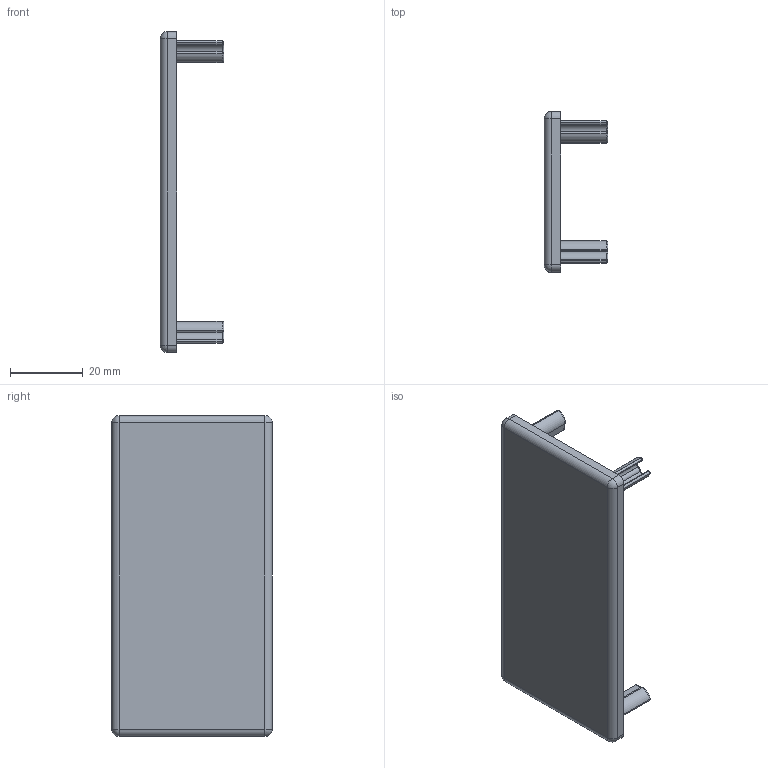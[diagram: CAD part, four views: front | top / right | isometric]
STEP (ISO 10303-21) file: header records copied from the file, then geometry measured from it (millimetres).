
FILE_DESCRIPTION (( 'STEP AP214' ), '1' );
FILE_NAME ('FBEC 44x88.step', '2017-04-05T08:01:00', ( '' ), ( '' ), 'SwSTEP 2.0', 'SolidWorks 2015', '' );
FILE_SCHEMA (( 'AUTOMOTIVE_DESIGN' ));
Length unit declared in the file: millimetre
Products named in the file (1): FBEC 44x88
Bounding box: 17.5 x 44 x 88 mm (x, y, z)
Volume: 9948.6 mm3; surface area: 10885.2 mm2
Topology: 1 solids, 1 shells, 197 faces, 468 edges, 262 vertices
Faces by surface type: cylinder 76, torus 66, plane 31, sphere 24
Entity records: 5652 total; most frequent: DIRECTION 1092, CARTESIAN_POINT 1062, ORIENTED_EDGE 896, AXIS2_PLACEMENT_3D 472, EDGE_CURVE 448, CIRCLE 274, VERTEX_POINT 258, EDGE_LOOP 202
